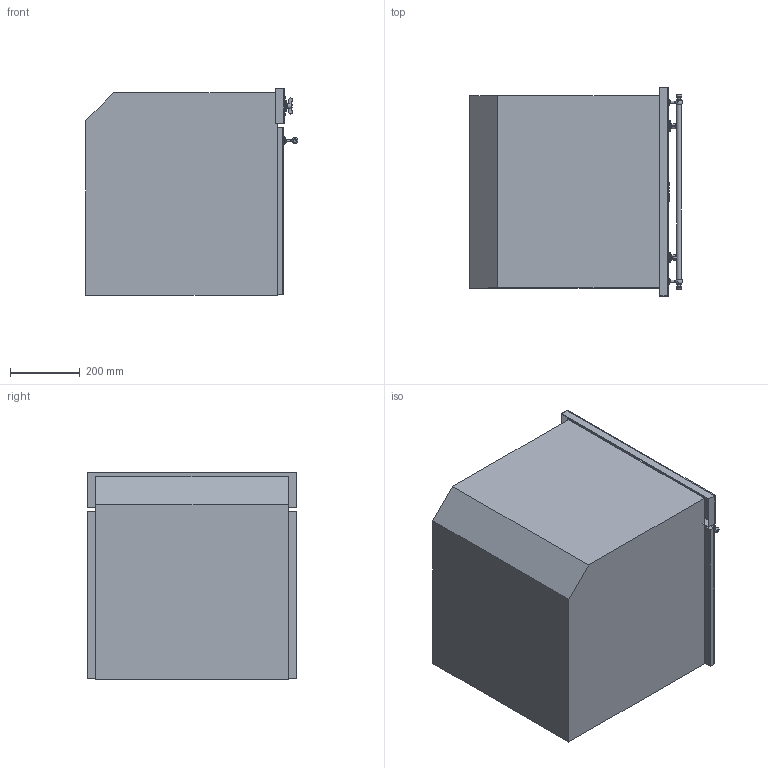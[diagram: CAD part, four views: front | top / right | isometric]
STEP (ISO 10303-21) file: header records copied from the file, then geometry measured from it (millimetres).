
FILE_DESCRIPTION(/* description */ (''),/* implementation_level */ '2;1');
FILE_NAME(/* name */ 'SF800AO.stp',/* time_stamp */ '2014-10-07T16:26:37+02:00',/* author */ (''),/* organization */ (''),/* preprocessor_version */ 'ST-DEVELOPER v11',/* originating_system */ 'SIEMENS PLM Software NX 7.5',/* authorisation */ '');
FILE_SCHEMA (('AUTOMOTIVE_DESIGN { 1 0 10303 214 1 1 1 1 }'));
Length unit declared in the file: millimetre
Products named in the file (1): FAVE158A2ilx
Bounding box: 608.3 x 597 x 592 mm (x, y, z)
Volume: 178760363.8 mm3; surface area: 3697821.4 mm2
Topology: 16 solids, 16 shells, 203 faces, 570 edges, 551 vertices
Faces by surface type: plane 115, cylinder 40, torus 21, cone 10, bspline 8, extrusion 5, sphere 4
Full cylindrical faces by diameter (mm): 4.351 x2, 6 x2, 9 x4, 10 x2, 11.75 x2, 12 x1, 13 x2, 14 x5, 14.3 x2, 15 x2, 16.6 x2, 20 x2, 30 x2, 48 x1, 51.8 x1, 52 x1, 54.8 x1, 55 x1, 57.2 x1
Entity records: 7513 total; most frequent: CARTESIAN_POINT 2255, DIRECTION 1025, ORIENTED_EDGE 630, AXIS2_PLACEMENT_3D 400, EDGE_LOOP 339, EDGE_CURVE 315, FACE_BOUND 256, VERTEX_POINT 254
